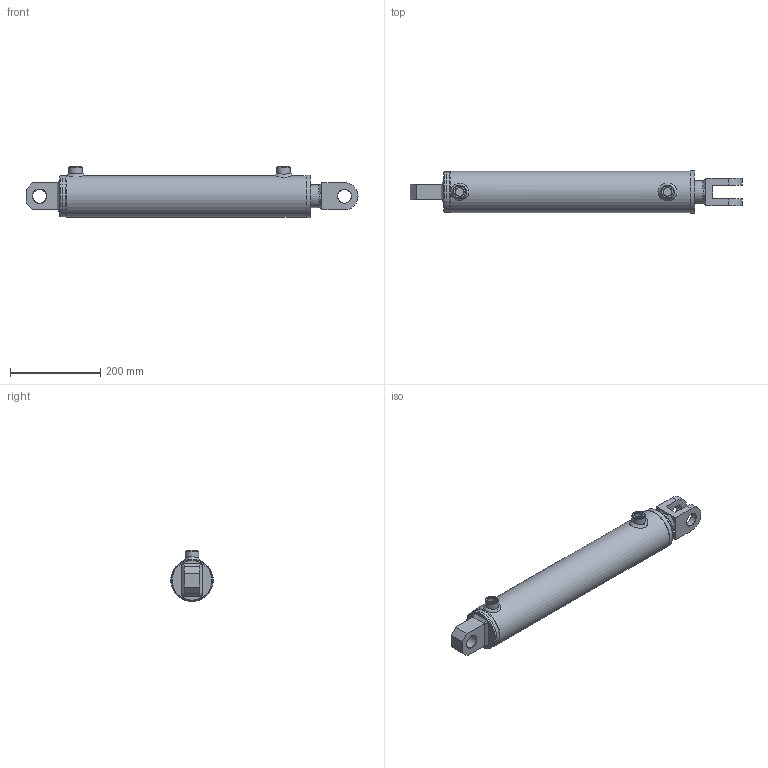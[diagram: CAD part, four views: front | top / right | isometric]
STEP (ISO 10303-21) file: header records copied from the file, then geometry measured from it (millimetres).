
FILE_DESCRIPTION( ( 'Unknown' ), '1' );
FILE_NAME( 'E:/LIBRERIA_3d/CILINDRI/HM5/HM55500400.stp', 'Unknown', ( 'Unknown' ), ( 'Unknown' ), 'PSStep 17.0.49', 'Unknown', ' ' );
FILE_SCHEMA( ( 'AUTOMOTIVE_DESIGN { 1 0 10303 214 1 1 1 1 }' ) );
Length unit declared in the file: millimetre
Products named in the file (34): STL5600400-oa7; Saldatura d'angolo 1-oa5; FTM5600400-oa6; CBSC220800; CT00080027; CG09508050; HM05500400; Saldatura con preparazione 1-oa3; Saldatura d'angolo 1-oa4; CF00080090; CBS0800000; CDA0002720; APG0800000; SBL5050400; Assem1; COF3000000; CFS0000030; Saldatura d'angolo 1-oa0; Saldatura con preparazione 1-oa1; Saldatura d'angolo 2-oa2
Assembly tree (20 placements, depth 4):
  Saldatura d'angolo 1-oa5
  Saldatura d'angolo 1-oa5
  Saldatura d'angolo 1-oa4
  Saldatura d'angolo 1-oa4
  Assem1
    COF3000000
    CFS0000030
    Saldatura con preparazione 1-oa1
    Saldatura con preparazione 1-oa1
    HM05500400
      Saldatura con preparazione 1-oa3
      Saldatura con preparazione 1-oa3
      CF00080090
      CBS0800000
      CDA0002720
      APG0800000  x2
      SBL5050400
      CT00080027
        CT00080027
      CG09508050
        CG09508050
      STL5600400-oa7
        FTM5600400-oa6
        CBSC220800
Bounding box: 735 x 94 x 113 mm (x, y, z)
Volume: 2613524.6 mm3; surface area: 565769.9 mm2
Topology: 30 solids, 30 shells, 303 faces, 634 edges, 394 vertices
Faces by surface type: plane 112, cylinder 75, cone 52, torus 36, bspline 28
Full cylindrical faces by diameter (mm): 4.25 x3, 8 x2, 12 x1, 18.631 x2, 19.5 x2, 20.95 x2, 26 x2, 26.4 x1, 27 x5, 30 x2, 30.25 x3, 33.2 x1, 41 x1, 50 x7, 53 x3, 58.6 x1, 60 x2, 74.16 x2, 75 x1, 78.34 x2, 79.9 x1, 80 x1, 80.3 x1, 80.5 x1, 80.6 x1, 81 x1, 82 x3, 82.835 x1, 85 x1, 90 x3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
Entity records: 13045 total; most frequent: CARTESIAN_POINT 5128, DIRECTION 1168, ORIENTED_EDGE 828, AXIS2_PLACEMENT_3D 527, EDGE_LOOP 495, EDGE_CURVE 414, FACE_OUTER_BOUND 402, VERTEX_POINT 338
